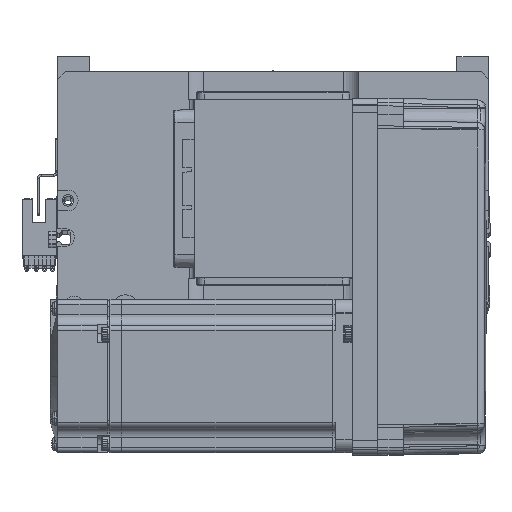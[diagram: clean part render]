
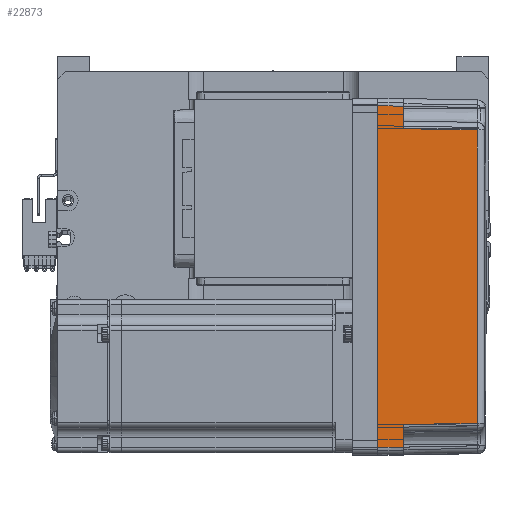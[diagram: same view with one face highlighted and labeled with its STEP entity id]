
A CAD part, top view. The second image highlights one B-rep face of the part: STEP entity #22873.
In plain terms, the highlighted planar face has unit normal (0.018, 0, 1) as drawn and (0, 1, 0.017) by its records, which use the part's own axes.
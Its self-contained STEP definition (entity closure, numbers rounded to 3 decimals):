
#180 = CARTESIAN_POINT ( 'NONE',  ( -58., 35.825, 10. ) ) ;
#2194 = LINE ( 'NONE', #60325, #26498 ) ;
#3078 = CARTESIAN_POINT ( 'NONE',  ( 57.495, 35.32, 38.985 ) ) ;
#3555 = ORIENTED_EDGE ( 'NONE', *, *, #49824, .T. ) ;
#6145 = ORIENTED_EDGE ( 'NONE', *, *, #63062, .T. ) ;
#6783 = VECTOR ( 'NONE', #32160, 1000. ) ;
#7182 = LINE ( 'NONE', #25815, #20109 ) ;
#8039 = CARTESIAN_POINT ( 'NONE',  ( 70., 36., 0. ) ) ;
#8636 = LINE ( 'NONE', #24549, #57267 ) ;
#10692 = EDGE_CURVE ( 'NONE', #31437, #48035, #30761, .T. ) ;
#11409 = DIRECTION ( 'NONE',  ( 0.017, -0.017, 1. ) ) ;
#11591 = DIRECTION ( 'NONE',  ( 1., 0., 0. ) ) ;
#16412 = CARTESIAN_POINT ( 'NONE',  ( -67., 36., 0. ) ) ;
#16580 = ORIENTED_EDGE ( 'NONE', *, *, #37334, .T. ) ;
#16984 = ORIENTED_EDGE ( 'NONE', *, *, #10692, .F. ) ;
#17139 = CARTESIAN_POINT ( 'NONE',  ( -57.495, 35.32, 38.985 ) ) ;
#17776 = LINE ( 'NONE', #21965, #60342 ) ;
#18502 = DIRECTION ( 'NONE',  ( -0.017, -0.017, 1. ) ) ;
#20109 = VECTOR ( 'NONE', #11409, 1000. ) ;
#20334 = EDGE_CURVE ( 'NONE', #46773, #34871, #7182, .T. ) ;
#20999 = VERTEX_POINT ( 'NONE', #57591 ) ;
#21185 = VECTOR ( 'NONE', #48434, 1000. ) ;
#21965 = CARTESIAN_POINT ( 'NONE',  ( 0., 36., 0. ) ) ;
#22873 = ADVANCED_FACE ( 'NONE', ( #50822 ), #31821, .T. ) ;
#24549 = CARTESIAN_POINT ( 'NONE',  ( 70., 35.825, 10. ) ) ;
#25398 = CARTESIAN_POINT ( 'NONE',  ( 58., 35.825, 10. ) ) ;
#25660 = CARTESIAN_POINT ( 'NONE',  ( 66.826, 35.825, 10. ) ) ;
#25815 = CARTESIAN_POINT ( 'NONE',  ( -67., 36., 0. ) ) ;
#26417 = EDGE_CURVE ( 'NONE', #46773, #31437, #17776, .T. ) ;
#26498 = VECTOR ( 'NONE', #40380, 1000. ) ;
#28079 = ORIENTED_EDGE ( 'NONE', *, *, #29979, .T. ) ;
#29566 = LINE ( 'NONE', #36412, #6783 ) ;
#29979 = EDGE_CURVE ( 'NONE', #31331, #48035, #29566, .T. ) ;
#30761 = LINE ( 'NONE', #47610, #55084 ) ;
#31306 = VERTEX_POINT ( 'NONE', #58782 ) ;
#31331 = VERTEX_POINT ( 'NONE', #25398 ) ;
#31437 = VERTEX_POINT ( 'NONE', #51077 ) ;
#31821 = PLANE ( 'NONE',  #44469 ) ;
#31892 = ORIENTED_EDGE ( 'NONE', *, *, #26417, .F. ) ;
#32160 = DIRECTION ( 'NONE',  ( 1., 0., 0. ) ) ;
#34871 = VERTEX_POINT ( 'NONE', #53893 ) ;
#34979 = VERTEX_POINT ( 'NONE', #49688 ) ;
#36249 = ORIENTED_EDGE ( 'NONE', *, *, #49786, .T. ) ;
#36412 = CARTESIAN_POINT ( 'NONE',  ( 70., 35.825, 10. ) ) ;
#37334 = EDGE_CURVE ( 'NONE', #34871, #20999, #8636, .T. ) ;
#37882 = B_SPLINE_CURVE_WITH_KNOTS ( 'NONE', 3,
 ( #17139, #41741, #51087, #3078 ),
 .UNSPECIFIED., .F., .F.,
 ( 4, 4 ),
 ( 0., 1. ),
 .UNSPECIFIED. ) ;
#39408 = LINE ( 'NONE', #180, #21185 ) ;
#40380 = DIRECTION ( 'NONE',  ( 0.017, 0.017, -1. ) ) ;
#40423 = ORIENTED_EDGE ( 'NONE', *, *, #20334, .T. ) ;
#41586 = DIRECTION ( 'NONE',  ( 0., 1., 0.017 ) ) ;
#41741 = CARTESIAN_POINT ( 'NONE',  ( -19.165, 35.316, 39.181 ) ) ;
#42034 = DIRECTION ( 'NONE',  ( 0., -0.017, 1. ) ) ;
#44469 = AXIS2_PLACEMENT_3D ( 'NONE', #8039, #41586, #42034 ) ;
#46773 = VERTEX_POINT ( 'NONE', #16412 ) ;
#47610 = CARTESIAN_POINT ( 'NONE',  ( 67.001, 36.001, -0.052 ) ) ;
#48035 = VERTEX_POINT ( 'NONE', #25660 ) ;
#48434 = DIRECTION ( 'NONE',  ( 0.017, -0.017, 1. ) ) ;
#49688 = CARTESIAN_POINT ( 'NONE',  ( 57.495, 35.32, 38.985 ) ) ;
#49786 = EDGE_CURVE ( 'NONE', #34979, #31331, #2194, .T. ) ;
#49824 = EDGE_CURVE ( 'NONE', #20999, #31306, #39408, .T. ) ;
#50822 = FACE_OUTER_BOUND ( 'NONE', #59303, .T. ) ;
#51077 = CARTESIAN_POINT ( 'NONE',  ( 67., 36., 0. ) ) ;
#51087 = CARTESIAN_POINT ( 'NONE',  ( 19.165, 35.316, 39.181 ) ) ;
#53893 = CARTESIAN_POINT ( 'NONE',  ( -66.826, 35.825, 10. ) ) ;
#55084 = VECTOR ( 'NONE', #18502, 1000. ) ;
#57267 = VECTOR ( 'NONE', #59425, 1000. ) ;
#57591 = CARTESIAN_POINT ( 'NONE',  ( -58., 35.825, 10. ) ) ;
#58782 = CARTESIAN_POINT ( 'NONE',  ( -57.495, 35.32, 38.985 ) ) ;
#59303 = EDGE_LOOP ( 'NONE', ( #40423, #16580, #3555, #6145, #36249, #28079, #16984, #31892 ) ) ;
#59425 = DIRECTION ( 'NONE',  ( 1., 0., 0. ) ) ;
#60325 = CARTESIAN_POINT ( 'NONE',  ( 57.495, 35.32, 38.985 ) ) ;
#60342 = VECTOR ( 'NONE', #11591, 1000. ) ;
#63062 = EDGE_CURVE ( 'NONE', #31306, #34979, #37882, .T. ) ;
